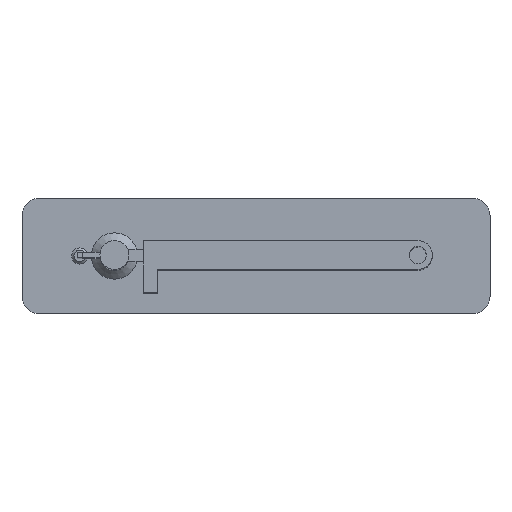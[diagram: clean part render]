
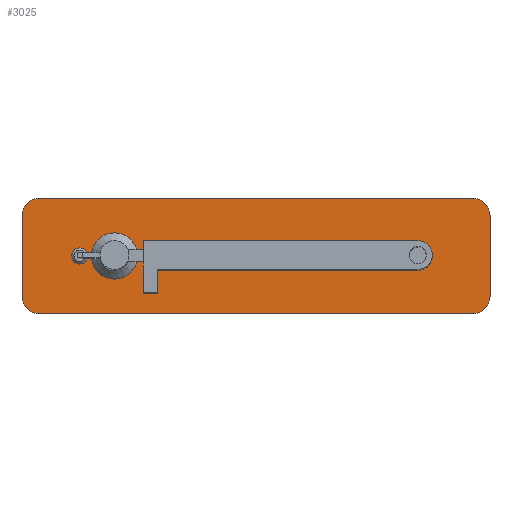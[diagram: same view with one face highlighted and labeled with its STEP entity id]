
A CAD part, top view. The second image highlights one B-rep face of the part: STEP entity #3025.
In plain terms, the highlighted planar face has unit normal (0, 0, 1).
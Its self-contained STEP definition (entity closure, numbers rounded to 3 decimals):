
#40=FACE_BOUND('',#433,.T.);
#41=FACE_BOUND('',#434,.T.);
#42=FACE_BOUND('',#435,.T.);
#143=PLANE('',#3255);
#282=FACE_OUTER_BOUND('',#432,.T.);
#432=EDGE_LOOP('',(#2571,#2572,#2573,#2574,#2575,#2576,#2577,#2578));
#433=EDGE_LOOP('',(#2579,#2580,#2581,#2582));
#434=EDGE_LOOP('',(#2583));
#435=EDGE_LOOP('',(#2584));
#691=LINE('',#4601,#1049);
#737=LINE('',#4711,#1095);
#778=LINE('',#4792,#1136);
#779=LINE('',#4796,#1137);
#780=LINE('',#4800,#1138);
#781=LINE('',#4803,#1139);
#782=LINE('',#4805,#1140);
#1049=VECTOR('',#3749,10.);
#1095=VECTOR('',#3841,10.);
#1136=VECTOR('',#3908,10.);
#1137=VECTOR('',#3911,10.);
#1138=VECTOR('',#3914,10.);
#1139=VECTOR('',#3917,10.);
#1140=VECTOR('',#3918,10.);
#1305=CIRCLE('',#3254,1.4);
#1306=CIRCLE('',#3256,3.);
#1307=CIRCLE('',#3257,3.);
#1308=CIRCLE('',#3258,3.);
#1309=CIRCLE('',#3259,3.);
#1310=CIRCLE('',#3260,2.5);
#1311=CIRCLE('',#3261,4.);
#1478=VERTEX_POINT('',#4598);
#1479=VERTEX_POINT('',#4600);
#1520=VERTEX_POINT('',#4710);
#1544=VERTEX_POINT('',#4784);
#1545=VERTEX_POINT('',#4788);
#1546=VERTEX_POINT('',#4789);
#1547=VERTEX_POINT('',#4791);
#1548=VERTEX_POINT('',#4793);
#1549=VERTEX_POINT('',#4795);
#1550=VERTEX_POINT('',#4797);
#1551=VERTEX_POINT('',#4799);
#1552=VERTEX_POINT('',#4801);
#1553=VERTEX_POINT('',#4804);
#1554=VERTEX_POINT('',#4807);
#1832=EDGE_CURVE('',#1479,#1478,#691,.T.);
#1889=EDGE_CURVE('',#1520,#1479,#737,.T.);
#1929=EDGE_CURVE('',#1544,#1544,#1305,.T.);
#1931=EDGE_CURVE('',#1545,#1546,#1306,.T.);
#1932=EDGE_CURVE('',#1545,#1547,#778,.T.);
#1933=EDGE_CURVE('',#1548,#1547,#1307,.T.);
#1934=EDGE_CURVE('',#1548,#1549,#779,.T.);
#1935=EDGE_CURVE('',#1550,#1549,#1308,.T.);
#1936=EDGE_CURVE('',#1550,#1551,#780,.T.);
#1937=EDGE_CURVE('',#1552,#1551,#1309,.T.);
#1938=EDGE_CURVE('',#1552,#1546,#781,.T.);
#1939=EDGE_CURVE('',#1478,#1553,#782,.T.);
#1940=EDGE_CURVE('',#1520,#1553,#1310,.F.);
#1941=EDGE_CURVE('',#1554,#1554,#1311,.T.);
#2571=ORIENTED_EDGE('',*,*,#1931,.F.);
#2572=ORIENTED_EDGE('',*,*,#1932,.T.);
#2573=ORIENTED_EDGE('',*,*,#1933,.F.);
#2574=ORIENTED_EDGE('',*,*,#1934,.T.);
#2575=ORIENTED_EDGE('',*,*,#1935,.F.);
#2576=ORIENTED_EDGE('',*,*,#1936,.T.);
#2577=ORIENTED_EDGE('',*,*,#1937,.F.);
#2578=ORIENTED_EDGE('',*,*,#1938,.T.);
#2579=ORIENTED_EDGE('',*,*,#1889,.T.);
#2580=ORIENTED_EDGE('',*,*,#1832,.T.);
#2581=ORIENTED_EDGE('',*,*,#1939,.T.);
#2582=ORIENTED_EDGE('',*,*,#1940,.F.);
#2583=ORIENTED_EDGE('',*,*,#1941,.F.);
#2584=ORIENTED_EDGE('',*,*,#1929,.F.);
#3025=ADVANCED_FACE('',(#282,#40,#41,#42),#143,.T.);
#3254=AXIS2_PLACEMENT_3D('',#4785,#3901,#3902);
#3255=AXIS2_PLACEMENT_3D('',#4787,#3904,#3905);
#3256=AXIS2_PLACEMENT_3D('',#4790,#3906,#3907);
#3257=AXIS2_PLACEMENT_3D('',#4794,#3909,#3910);
#3258=AXIS2_PLACEMENT_3D('',#4798,#3912,#3913);
#3259=AXIS2_PLACEMENT_3D('',#4802,#3915,#3916);
#3260=AXIS2_PLACEMENT_3D('',#4806,#3919,#3920);
#3261=AXIS2_PLACEMENT_3D('',#4808,#3921,#3922);
#3749=DIRECTION('',(0.,1.,0.));
#3841=DIRECTION('',(-1.,0.,0.));
#3901=DIRECTION('center_axis',(0.,0.,1.));
#3902=DIRECTION('ref_axis',(-1.,0.,0.));
#3904=DIRECTION('center_axis',(0.,0.,1.));
#3905=DIRECTION('ref_axis',(1.,0.,0.));
#3906=DIRECTION('center_axis',(0.,0.,-1.));
#3907=DIRECTION('ref_axis',(0.707,-0.707,0.));
#3908=DIRECTION('',(0.,1.,0.));
#3909=DIRECTION('center_axis',(0.,0.,-1.));
#3910=DIRECTION('ref_axis',(0.707,0.707,0.));
#3911=DIRECTION('',(-1.,0.,0.));
#3912=DIRECTION('center_axis',(0.,0.,-1.));
#3913=DIRECTION('ref_axis',(-0.707,0.707,0.));
#3914=DIRECTION('',(0.,-1.,0.));
#3915=DIRECTION('center_axis',(0.,0.,-1.));
#3916=DIRECTION('ref_axis',(-0.707,-0.707,0.));
#3917=DIRECTION('',(1.,0.,0.));
#3918=DIRECTION('',(1.,0.,0.));
#3919=DIRECTION('center_axis',(0.,0.,-1.));
#3920=DIRECTION('ref_axis',(0.707,-0.707,0.));
#3921=DIRECTION('center_axis',(0.,0.,1.));
#3922=DIRECTION('ref_axis',(-1.,0.,0.));
#4598=CARTESIAN_POINT('',(0.,2.5,0.2));
#4600=CARTESIAN_POINT('',(0.,-2.5,0.2));
#4601=CARTESIAN_POINT('',(0.,1.5,0.2));
#4710=CARTESIAN_POINT('',(47.5,-2.5,0.2));
#4711=CARTESIAN_POINT('',(-25.,-2.5,0.2));
#4784=CARTESIAN_POINT('',(-9.6,0.,0.2));
#4785=CARTESIAN_POINT('Origin',(-11.,0.,0.2));
#4787=CARTESIAN_POINT('Origin',(0.,0.,0.2));
#4788=CARTESIAN_POINT('',(60.,-7.,0.2));
#4789=CARTESIAN_POINT('',(57.,-10.,0.2));
#4790=CARTESIAN_POINT('Origin',(57.,-7.,0.2));
#4791=CARTESIAN_POINT('',(60.,7.,0.2));
#4792=CARTESIAN_POINT('',(60.,10.,0.2));
#4793=CARTESIAN_POINT('',(57.,10.,0.2));
#4794=CARTESIAN_POINT('Origin',(57.,7.,0.2));
#4795=CARTESIAN_POINT('',(-18.,10.,0.2));
#4796=CARTESIAN_POINT('',(-60.,10.,0.2));
#4797=CARTESIAN_POINT('',(-21.,7.,0.2));
#4798=CARTESIAN_POINT('Origin',(-18.,7.,0.2));
#4799=CARTESIAN_POINT('',(-21.,-7.,0.2));
#4800=CARTESIAN_POINT('',(-21.,5.,0.2));
#4801=CARTESIAN_POINT('',(-18.,-10.,0.2));
#4802=CARTESIAN_POINT('Origin',(-18.,-7.,0.2));
#4803=CARTESIAN_POINT('',(60.,-10.,0.2));
#4804=CARTESIAN_POINT('',(47.5,2.5,0.2));
#4805=CARTESIAN_POINT('',(25.,2.5,0.2));
#4806=CARTESIAN_POINT('Origin',(47.5,0.,0.2));
#4807=CARTESIAN_POINT('',(-1.,0.,0.2));
#4808=CARTESIAN_POINT('Origin',(-5.,0.,0.2));
